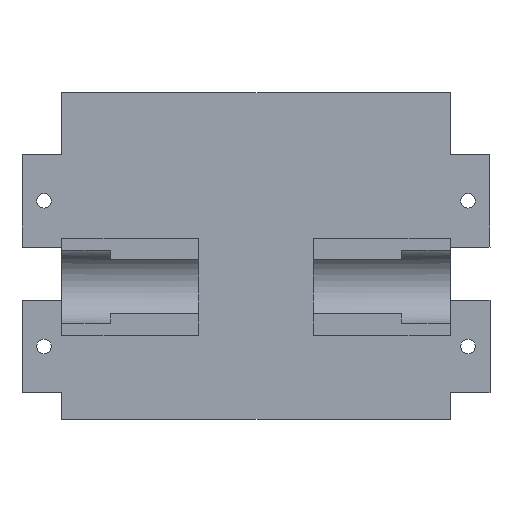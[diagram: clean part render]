
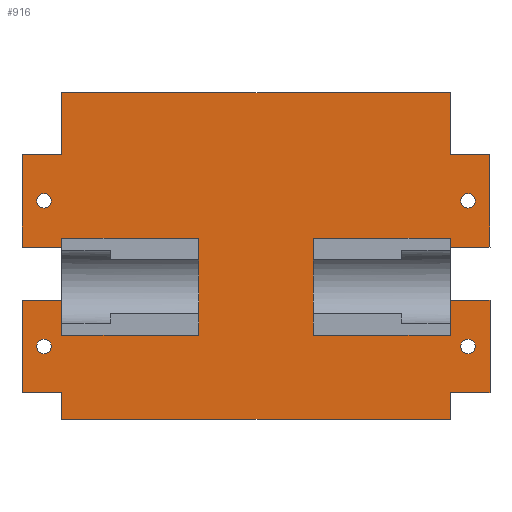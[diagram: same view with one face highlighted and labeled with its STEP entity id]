
A CAD part, top view. The second image highlights one B-rep face of the part: STEP entity #916.
In plain terms, the highlighted planar face has unit normal (0, 0, 1).
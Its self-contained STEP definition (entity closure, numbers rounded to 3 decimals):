
#15=FACE_BOUND('',#125,.T.);
#16=FACE_BOUND('',#126,.T.);
#17=FACE_BOUND('',#127,.T.);
#18=FACE_BOUND('',#128,.T.);
#34=PLANE('',#972);
#78=FACE_OUTER_BOUND('',#124,.T.);
#124=EDGE_LOOP('',(#691,#692,#693,#694,#695,#696,#697,#698,#699,#700,#701,
#702,#703,#704,#705,#706,#707,#708,#709,#710,#711,#712,#713,#714,#715,#716,
#717,#718));
#125=EDGE_LOOP('',(#719));
#126=EDGE_LOOP('',(#720));
#127=EDGE_LOOP('',(#721));
#128=EDGE_LOOP('',(#722));
#169=LINE('',#1285,#285);
#173=LINE('',#1294,#289);
#177=LINE('',#1303,#293);
#181=LINE('',#1312,#297);
#185=LINE('',#1319,#301);
#188=LINE('',#1325,#304);
#189=LINE('',#1329,#305);
#193=LINE('',#1337,#309);
#196=LINE('',#1344,#312);
#200=LINE('',#1351,#316);
#202=LINE('',#1354,#318);
#204=LINE('',#1358,#320);
#205=LINE('',#1360,#321);
#206=LINE('',#1362,#322);
#207=LINE('',#1364,#323);
#208=LINE('',#1365,#324);
#209=LINE('',#1366,#325);
#210=LINE('',#1368,#326);
#211=LINE('',#1370,#327);
#212=LINE('',#1372,#328);
#213=LINE('',#1374,#329);
#214=LINE('',#1375,#330);
#215=LINE('',#1377,#331);
#216=LINE('',#1379,#332);
#217=LINE('',#1381,#333);
#218=LINE('',#1383,#334);
#219=LINE('',#1385,#335);
#220=LINE('',#1386,#336);
#285=VECTOR('',#1045,10.);
#289=VECTOR('',#1051,10.);
#293=VECTOR('',#1057,10.);
#297=VECTOR('',#1063,10.);
#301=VECTOR('',#1069,10.);
#304=VECTOR('',#1074,10.);
#305=VECTOR('',#1077,10.);
#309=VECTOR('',#1083,10.);
#312=VECTOR('',#1088,10.);
#316=VECTOR('',#1094,10.);
#318=VECTOR('',#1098,10.);
#320=VECTOR('',#1102,10.);
#321=VECTOR('',#1103,10.);
#322=VECTOR('',#1104,10.);
#323=VECTOR('',#1105,10.);
#324=VECTOR('',#1106,10.);
#325=VECTOR('',#1107,10.);
#326=VECTOR('',#1108,10.);
#327=VECTOR('',#1109,10.);
#328=VECTOR('',#1110,10.);
#329=VECTOR('',#1111,10.);
#330=VECTOR('',#1112,10.);
#331=VECTOR('',#1113,10.);
#332=VECTOR('',#1114,10.);
#333=VECTOR('',#1115,10.);
#334=VECTOR('',#1116,10.);
#335=VECTOR('',#1117,10.);
#336=VECTOR('',#1118,10.);
#396=CIRCLE('',#951,1.65);
#398=CIRCLE('',#954,1.65);
#400=CIRCLE('',#957,1.65);
#402=CIRCLE('',#960,1.65);
#412=VERTEX_POINT('',#1257);
#414=VERTEX_POINT('',#1263);
#416=VERTEX_POINT('',#1269);
#418=VERTEX_POINT('',#1275);
#421=VERTEX_POINT('',#1282);
#422=VERTEX_POINT('',#1284);
#425=VERTEX_POINT('',#1291);
#426=VERTEX_POINT('',#1293);
#429=VERTEX_POINT('',#1300);
#430=VERTEX_POINT('',#1302);
#433=VERTEX_POINT('',#1309);
#434=VERTEX_POINT('',#1311);
#436=VERTEX_POINT('',#1317);
#438=VERTEX_POINT('',#1323);
#439=VERTEX_POINT('',#1327);
#440=VERTEX_POINT('',#1328);
#443=VERTEX_POINT('',#1336);
#445=VERTEX_POINT('',#1342);
#446=VERTEX_POINT('',#1343);
#449=VERTEX_POINT('',#1357);
#450=VERTEX_POINT('',#1359);
#451=VERTEX_POINT('',#1361);
#452=VERTEX_POINT('',#1363);
#453=VERTEX_POINT('',#1367);
#454=VERTEX_POINT('',#1369);
#455=VERTEX_POINT('',#1371);
#456=VERTEX_POINT('',#1373);
#457=VERTEX_POINT('',#1376);
#458=VERTEX_POINT('',#1378);
#459=VERTEX_POINT('',#1380);
#460=VERTEX_POINT('',#1382);
#461=VERTEX_POINT('',#1384);
#501=EDGE_CURVE('',#412,#412,#396,.T.);
#504=EDGE_CURVE('',#414,#414,#398,.T.);
#507=EDGE_CURVE('',#416,#416,#400,.T.);
#510=EDGE_CURVE('',#418,#418,#402,.T.);
#513=EDGE_CURVE('',#422,#421,#169,.T.);
#517=EDGE_CURVE('',#426,#425,#173,.T.);
#521=EDGE_CURVE('',#430,#429,#177,.T.);
#525=EDGE_CURVE('',#434,#433,#181,.T.);
#529=EDGE_CURVE('',#436,#421,#185,.T.);
#532=EDGE_CURVE('',#438,#433,#188,.T.);
#533=EDGE_CURVE('',#439,#440,#189,.T.);
#537=EDGE_CURVE('',#443,#439,#193,.T.);
#540=EDGE_CURVE('',#445,#446,#196,.T.);
#544=EDGE_CURVE('',#436,#445,#200,.T.);
#546=EDGE_CURVE('',#430,#440,#202,.T.);
#548=EDGE_CURVE('',#425,#449,#204,.T.);
#549=EDGE_CURVE('',#449,#450,#205,.T.);
#550=EDGE_CURVE('',#450,#451,#206,.T.);
#551=EDGE_CURVE('',#451,#452,#207,.T.);
#552=EDGE_CURVE('',#452,#422,#208,.T.);
#553=EDGE_CURVE('',#446,#443,#209,.T.);
#554=EDGE_CURVE('',#429,#453,#210,.T.);
#555=EDGE_CURVE('',#453,#454,#211,.T.);
#556=EDGE_CURVE('',#454,#455,#212,.T.);
#557=EDGE_CURVE('',#455,#456,#213,.T.);
#558=EDGE_CURVE('',#456,#434,#214,.T.);
#559=EDGE_CURVE('',#438,#457,#215,.T.);
#560=EDGE_CURVE('',#457,#458,#216,.T.);
#561=EDGE_CURVE('',#459,#458,#217,.T.);
#562=EDGE_CURVE('',#459,#460,#218,.T.);
#563=EDGE_CURVE('',#460,#461,#219,.T.);
#564=EDGE_CURVE('',#426,#461,#220,.T.);
#691=ORIENTED_EDGE('',*,*,#517,.T.);
#692=ORIENTED_EDGE('',*,*,#548,.T.);
#693=ORIENTED_EDGE('',*,*,#549,.T.);
#694=ORIENTED_EDGE('',*,*,#550,.T.);
#695=ORIENTED_EDGE('',*,*,#551,.T.);
#696=ORIENTED_EDGE('',*,*,#552,.T.);
#697=ORIENTED_EDGE('',*,*,#513,.T.);
#698=ORIENTED_EDGE('',*,*,#529,.F.);
#699=ORIENTED_EDGE('',*,*,#544,.T.);
#700=ORIENTED_EDGE('',*,*,#540,.T.);
#701=ORIENTED_EDGE('',*,*,#553,.T.);
#702=ORIENTED_EDGE('',*,*,#537,.T.);
#703=ORIENTED_EDGE('',*,*,#533,.T.);
#704=ORIENTED_EDGE('',*,*,#546,.F.);
#705=ORIENTED_EDGE('',*,*,#521,.T.);
#706=ORIENTED_EDGE('',*,*,#554,.T.);
#707=ORIENTED_EDGE('',*,*,#555,.T.);
#708=ORIENTED_EDGE('',*,*,#556,.T.);
#709=ORIENTED_EDGE('',*,*,#557,.T.);
#710=ORIENTED_EDGE('',*,*,#558,.T.);
#711=ORIENTED_EDGE('',*,*,#525,.T.);
#712=ORIENTED_EDGE('',*,*,#532,.F.);
#713=ORIENTED_EDGE('',*,*,#559,.T.);
#714=ORIENTED_EDGE('',*,*,#560,.T.);
#715=ORIENTED_EDGE('',*,*,#561,.F.);
#716=ORIENTED_EDGE('',*,*,#562,.T.);
#717=ORIENTED_EDGE('',*,*,#563,.T.);
#718=ORIENTED_EDGE('',*,*,#564,.F.);
#719=ORIENTED_EDGE('',*,*,#501,.T.);
#720=ORIENTED_EDGE('',*,*,#504,.T.);
#721=ORIENTED_EDGE('',*,*,#507,.T.);
#722=ORIENTED_EDGE('',*,*,#510,.T.);
#916=ADVANCED_FACE('',(#78,#15,#16,#17,#18),#34,.F.);
#951=AXIS2_PLACEMENT_3D('',#1259,#1018,#1019);
#954=AXIS2_PLACEMENT_3D('',#1265,#1025,#1026);
#957=AXIS2_PLACEMENT_3D('',#1271,#1032,#1033);
#960=AXIS2_PLACEMENT_3D('',#1277,#1039,#1040);
#972=AXIS2_PLACEMENT_3D('',#1356,#1100,#1101);
#1018=DIRECTION('center_axis',(0.,0.,-1.));
#1019=DIRECTION('ref_axis',(1.,0.,0.));
#1025=DIRECTION('center_axis',(0.,0.,-1.));
#1026=DIRECTION('ref_axis',(1.,0.,0.));
#1032=DIRECTION('center_axis',(0.,0.,-1.));
#1033=DIRECTION('ref_axis',(1.,0.,0.));
#1039=DIRECTION('center_axis',(0.,0.,-1.));
#1040=DIRECTION('ref_axis',(1.,0.,0.));
#1045=DIRECTION('',(-1.,0.,0.));
#1051=DIRECTION('',(1.,0.,0.));
#1057=DIRECTION('',(-1.,0.,0.));
#1063=DIRECTION('',(1.,0.,0.));
#1069=DIRECTION('',(0.,1.,0.));
#1074=DIRECTION('',(0.,-1.,0.));
#1077=DIRECTION('',(1.,0.,0.));
#1083=DIRECTION('',(0.,1.,0.));
#1088=DIRECTION('',(0.,-1.,0.));
#1094=DIRECTION('',(1.,0.,0.));
#1098=DIRECTION('',(0.,-1.,0.));
#1100=DIRECTION('center_axis',(0.,0.,-1.));
#1101=DIRECTION('ref_axis',(0.,-1.,0.));
#1102=DIRECTION('',(0.,1.,0.));
#1103=DIRECTION('',(1.,0.,0.));
#1104=DIRECTION('',(0.,-1.,0.));
#1105=DIRECTION('',(-1.,0.,0.));
#1106=DIRECTION('',(0.,1.,0.));
#1107=DIRECTION('',(1.,0.,0.));
#1108=DIRECTION('',(0.,-1.,0.));
#1109=DIRECTION('',(-1.,0.,0.));
#1110=DIRECTION('',(0.,1.,0.));
#1111=DIRECTION('',(1.,0.,0.));
#1112=DIRECTION('',(0.,-1.,0.));
#1113=DIRECTION('',(-1.,0.,0.));
#1114=DIRECTION('',(0.,1.,0.));
#1115=DIRECTION('',(1.,0.,0.));
#1116=DIRECTION('',(0.,-1.,0.));
#1117=DIRECTION('',(-1.,0.,0.));
#1118=DIRECTION('',(0.,1.,0.));
#1257=CARTESIAN_POINT('',(99.35,22.5,3.));
#1259=CARTESIAN_POINT('Origin',(101.,22.5,3.));
#1263=CARTESIAN_POINT('',(3.35,55.5,3.));
#1265=CARTESIAN_POINT('Origin',(5.,55.5,3.));
#1269=CARTESIAN_POINT('',(99.35,55.5,3.));
#1271=CARTESIAN_POINT('Origin',(101.,55.5,3.));
#1275=CARTESIAN_POINT('',(3.35,22.5,3.));
#1277=CARTESIAN_POINT('Origin',(5.,22.5,3.));
#1282=CARTESIAN_POINT('',(0.,33.,3.));
#1284=CARTESIAN_POINT('',(9.,33.,3.));
#1285=CARTESIAN_POINT('',(4.5,33.,3.));
#1291=CARTESIAN_POINT('',(9.,45.,3.));
#1293=CARTESIAN_POINT('',(0.,45.,3.));
#1294=CARTESIAN_POINT('',(9.,45.,3.));
#1300=CARTESIAN_POINT('',(97.,33.,3.));
#1302=CARTESIAN_POINT('',(106.,33.,3.));
#1303=CARTESIAN_POINT('',(53.,33.,3.));
#1309=CARTESIAN_POINT('',(106.,45.,3.));
#1311=CARTESIAN_POINT('',(97.,45.,3.));
#1312=CARTESIAN_POINT('',(57.5,45.,3.));
#1317=CARTESIAN_POINT('',(0.,12.,3.));
#1319=CARTESIAN_POINT('',(0.,36.,3.));
#1323=CARTESIAN_POINT('',(106.,66.,3.));
#1325=CARTESIAN_POINT('',(106.,6.,3.));
#1327=CARTESIAN_POINT('',(97.,12.,3.));
#1328=CARTESIAN_POINT('',(106.,12.,3.));
#1329=CARTESIAN_POINT('',(53.,12.,3.));
#1336=CARTESIAN_POINT('',(97.,6.,3.));
#1337=CARTESIAN_POINT('',(97.,40.143,3.));
#1342=CARTESIAN_POINT('',(9.,12.,3.));
#1343=CARTESIAN_POINT('',(9.,6.,3.));
#1344=CARTESIAN_POINT('',(9.,46.143,3.));
#1351=CARTESIAN_POINT('',(4.5,12.,3.));
#1354=CARTESIAN_POINT('',(106.,6.,3.));
#1356=CARTESIAN_POINT('Origin',(9.,80.286,3.));
#1357=CARTESIAN_POINT('',(9.,47.,3.));
#1358=CARTESIAN_POINT('',(9.,69.393,3.));
#1359=CARTESIAN_POINT('',(40.,47.,3.));
#1360=CARTESIAN_POINT('',(24.5,47.,3.));
#1361=CARTESIAN_POINT('',(40.,25.,3.));
#1362=CARTESIAN_POINT('',(40.,52.643,3.));
#1363=CARTESIAN_POINT('',(9.,25.,3.));
#1364=CARTESIAN_POINT('',(14.5,25.,3.));
#1365=CARTESIAN_POINT('',(9.,69.393,3.));
#1366=CARTESIAN_POINT('',(106.,6.,3.));
#1367=CARTESIAN_POINT('',(97.,25.,3.));
#1368=CARTESIAN_POINT('',(97.,69.393,3.));
#1369=CARTESIAN_POINT('',(66.,25.,3.));
#1370=CARTESIAN_POINT('',(37.5,25.,3.));
#1371=CARTESIAN_POINT('',(66.,47.,3.));
#1372=CARTESIAN_POINT('',(66.,63.643,3.));
#1373=CARTESIAN_POINT('',(97.,47.,3.));
#1374=CARTESIAN_POINT('',(47.5,47.,3.));
#1375=CARTESIAN_POINT('',(97.,69.393,3.));
#1376=CARTESIAN_POINT('',(97.,66.,3.));
#1377=CARTESIAN_POINT('',(57.5,66.,3.));
#1378=CARTESIAN_POINT('',(97.,80.,3.));
#1379=CARTESIAN_POINT('',(97.,69.393,3.));
#1380=CARTESIAN_POINT('',(9.,80.,3.));
#1381=CARTESIAN_POINT('',(0.,80.,3.));
#1382=CARTESIAN_POINT('',(9.,66.,3.));
#1383=CARTESIAN_POINT('',(9.,69.393,3.));
#1384=CARTESIAN_POINT('',(0.,66.,3.));
#1385=CARTESIAN_POINT('',(57.5,66.,3.));
#1386=CARTESIAN_POINT('',(0.,36.,3.));
